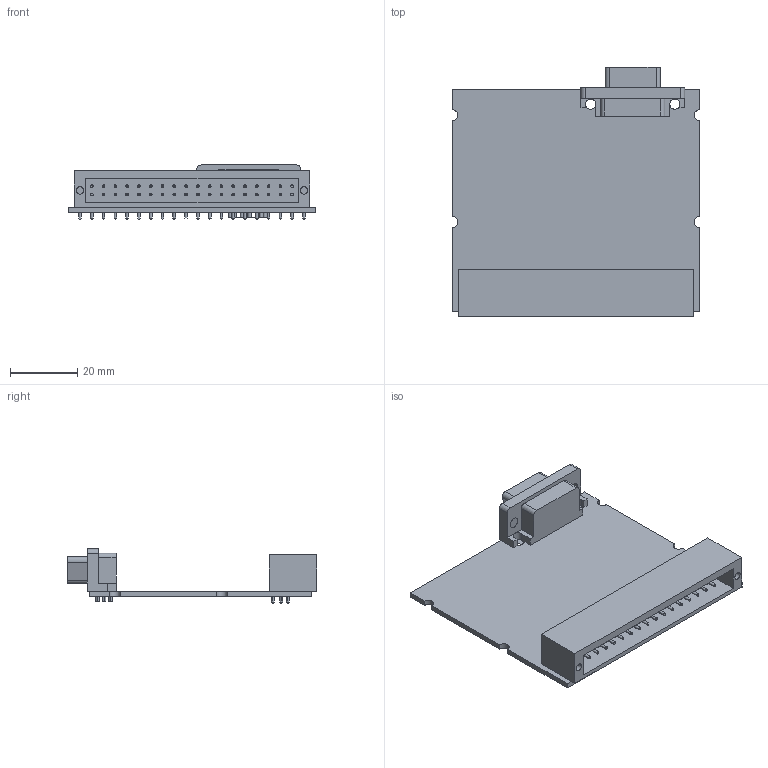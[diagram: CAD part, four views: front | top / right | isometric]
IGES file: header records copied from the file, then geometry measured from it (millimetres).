
Start section:  PTC IGES file: cu_36pos_weid_cca_only.igs
Global section: file name: cu_36pos_weid_cca_only.igs; native system: Creo Parametric by Parametric Technology Corporation; preprocessor: 2015280; author: dkendric; organization: Unknown; date: 20151217.150024; units: inch
Bounding box: 73.38 x 74.19 x 16.05 mm (x, y, z)
Surface area: 17548.2 mm2 (no closed solid volume)
Topology: 0 solids, 0 shells, 400 faces, 1744 edges, 1744 vertices
Faces by surface type: revolution 295, bspline 105
